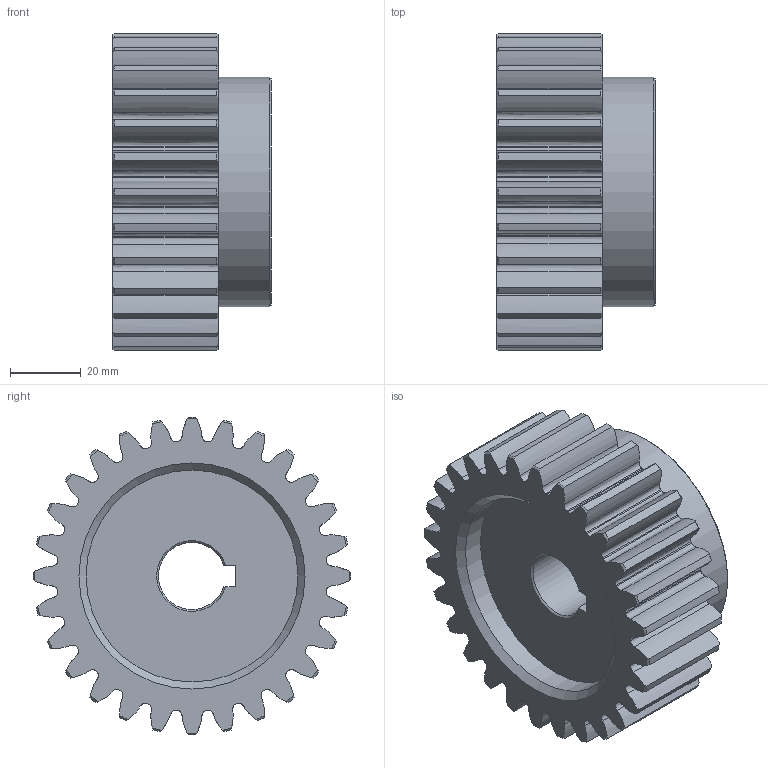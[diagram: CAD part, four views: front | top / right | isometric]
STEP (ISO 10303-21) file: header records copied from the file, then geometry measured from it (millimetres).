
FILE_DESCRIPTION(('STEP AP214'), '1');
FILE_NAME('GS3-T28D19 - Øåñòåðíÿ', '2018-02-16T11:21:14', (''), (''), 'ASCON STEP Converter 1.3', 'ASCON Math Kernel', '');
FILE_SCHEMA(('AUTOMOTIVE_DESIGN { 1 0 10303 214 3 1 1}'));
Length unit declared in the file: millimetre
Products named in the file (1): GS3-T28D19
Bounding box: 45 x 90 x 90 mm (x, y, z)
Volume: 180128.4 mm3; surface area: 32446.9 mm2
Topology: 1 solids, 1 shells, 240 faces, 706 edges, 470 vertices
Faces by surface type: extrusion 112, cylinder 61, cone 60, plane 7
Full cylindrical faces by diameter (mm): 60 x1, 65 x1
Entity records: 12303 total; most frequent: CARTESIAN_POINT 4345, ORIENTED_EDGE 1404, DIRECTION 914, EDGE_CURVE 702, VERTEX_POINT 470, B_SPLINE_CURVE_WITH_KNOTS 452, AXIS2_PLACEMENT_3D 311, VECTOR 292
